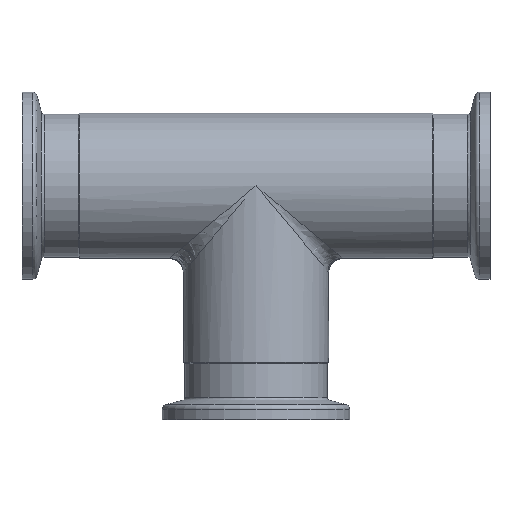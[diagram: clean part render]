
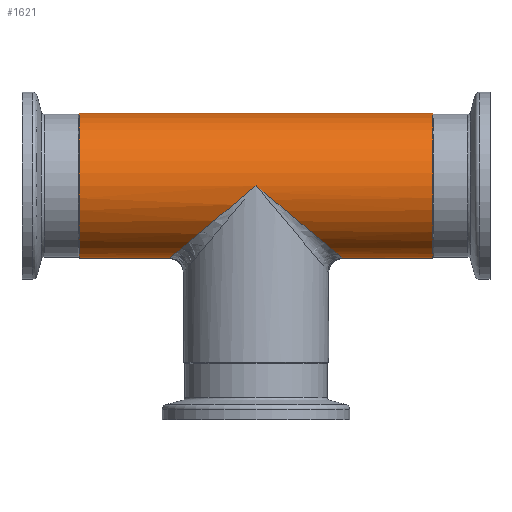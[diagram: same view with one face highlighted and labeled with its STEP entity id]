
A CAD part, top view. The second image highlights one B-rep face of the part: STEP entity #1621.
In plain terms, the highlighted cylindrical face has radius 15.5 mm (diameter 31 mm), a full revolution.
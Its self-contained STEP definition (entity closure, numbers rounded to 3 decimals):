
#757=CARTESIAN_POINT('',(-37.75,-15.5,0.));
#758=VERTEX_POINT('',#757);
#759=CARTESIAN_POINT('',(-37.75,0.,0.0));
#760=DIRECTION('',(1.0,0.0,0.0));
#761=DIRECTION('',(0.0,1.0,0.0));
#762=AXIS2_PLACEMENT_3D('',#759,#760,#761);
#763=CIRCLE('',#762,15.5);
#764=EDGE_CURVE('',#758,#758,#763,.T.);
#1006=CARTESIAN_POINT('',(37.75,-15.5,0.));
#1007=VERTEX_POINT('',#1006);
#1008=CARTESIAN_POINT('',(37.75,0.,0.0));
#1009=DIRECTION('',(-1.0,0.0,0.0));
#1010=DIRECTION('',(0.0,1.0,0.0));
#1011=AXIS2_PLACEMENT_3D('',#1008,#1009,#1010);
#1012=CIRCLE('',#1011,15.5);
#1013=EDGE_CURVE('',#1007,#1007,#1012,.T.);
#1314=CARTESIAN_POINT('',(0.,0.,-15.5));
#1315=VERTEX_POINT('',#1314);
#1316=CARTESIAN_POINT('',(0.0,0.,15.5));
#1317=VERTEX_POINT('',#1316);
#1318=CARTESIAN_POINT('',(0.0,0.0,0.));
#1319=DIRECTION('',(-0.642,-0.767,0.));
#1320=DIRECTION('',(0.767,-0.642,0.));
#1321=AXIS2_PLACEMENT_3D('',#1318,#1319,#1320);
#1322=ELLIPSE('',#1321,24.135,15.5);
#1323=EDGE_CURVE('',#1315,#1317,#1322,.T.);
#1576=CARTESIAN_POINT('',(0.0,0.0,0.));
#1577=DIRECTION('',(0.642,-0.767,0.));
#1578=DIRECTION('',(-0.767,-0.642,0.));
#1579=AXIS2_PLACEMENT_3D('',#1576,#1577,#1578);
#1580=ELLIPSE('',#1579,24.135,15.5);
#1581=EDGE_CURVE('',#1317,#1315,#1580,.T.);
#1606=CARTESIAN_POINT('',(20.125,0.,0.0));
#1607=DIRECTION('',(1.0,0.,0.0));
#1608=DIRECTION('',(0.0,1.0,0.0));
#1609=AXIS2_PLACEMENT_3D('',#1606,#1607,#1608);
#1610=CYLINDRICAL_SURFACE('',#1609,15.5);
#1611=ORIENTED_EDGE('',*,*,#764,.T.);
#1612=EDGE_LOOP('',(#1611));
#1613=FACE_OUTER_BOUND('',#1612,.T.);
#1614=ORIENTED_EDGE('',*,*,#1013,.T.);
#1615=EDGE_LOOP('',(#1614));
#1616=FACE_BOUND('',#1615,.T.);
#1617=ORIENTED_EDGE('',*,*,#1323,.F.);
#1618=ORIENTED_EDGE('',*,*,#1581,.F.);
#1619=EDGE_LOOP('',(#1617,#1618));
#1620=FACE_BOUND('',#1619,.T.);
#1621=ADVANCED_FACE('',(#1613,#1616,#1620),#1610,.T.);
